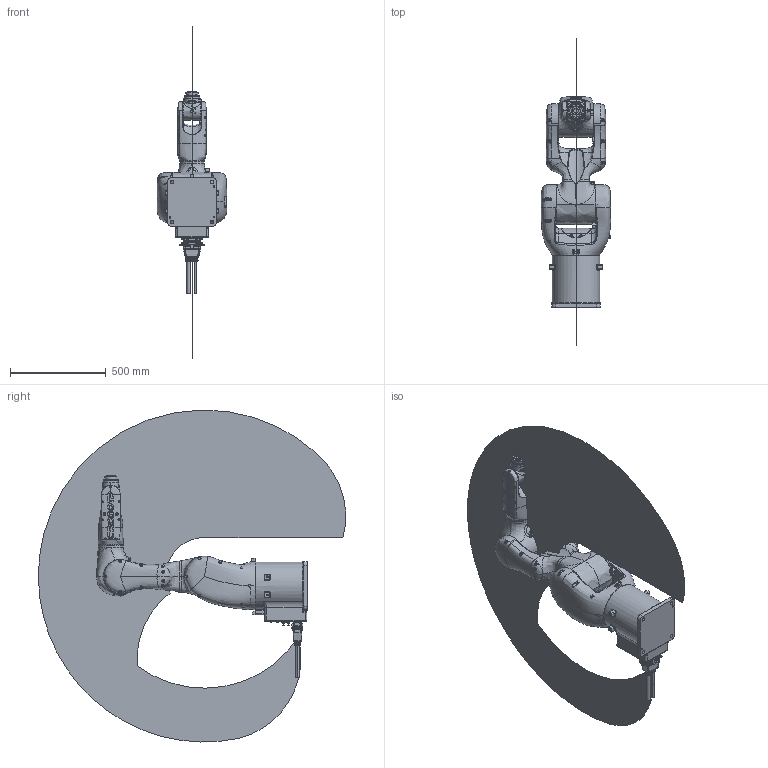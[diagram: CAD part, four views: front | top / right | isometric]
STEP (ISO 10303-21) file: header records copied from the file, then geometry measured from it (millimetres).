
FILE_DESCRIPTION (( 'STEP AP214' ), '1' );
FILE_NAME ('RA09-12 六轴低负载高防护机器人-简化模型 2023.8.22.STEP', '2024-03-18T03:04:25', ( '' ), ( '' ), 'SwSTEP 2.0', 'SolidWorks 2021', '' );
FILE_SCHEMA (( 'AUTOMOTIVE_DESIGN' ));
Length unit declared in the file: millimetre
Products named in the file (9): RA09120006; RA09120007; RA09120001; RA09120003; RA09-12 六轴低负载高防护机器人-简化模型 2023.8.22; RA09120002; RA09120008; RA09120004; RA09120005
Assembly tree (8 placements, depth 2):
  RA09-12 六轴低负载高防护机器人-简化模型 2023.8.22
    RA09120001
    RA09120002
    RA09120004
    RA09120003
    RA09120005
    RA09120006
    RA09120007
    RA09120008
Bounding box: 365 x 1606.97 x 1736.5 mm (x, y, z)
Volume: 59596175.1 mm3; surface area: 3701019 mm2
Topology: 37 solids, 66 shells, 6374 faces, 15428 edges, 9228 vertices
Faces by surface type: cylinder 2085, plane 1840, bspline 1663, cone 465, torus 309, sphere 12
Entity records: 529007 total; most frequent: CARTESIAN_POINT 347642, ORIENTED_EDGE 30307, DIRECTION 25883, EDGE_CURVE 15156, AXIS2_PLACEMENT_3D 10192, VERTEX_POINT 9228, EDGE_LOOP 6793, ADVANCED_FACE 6374
